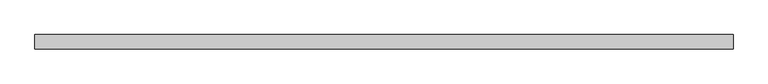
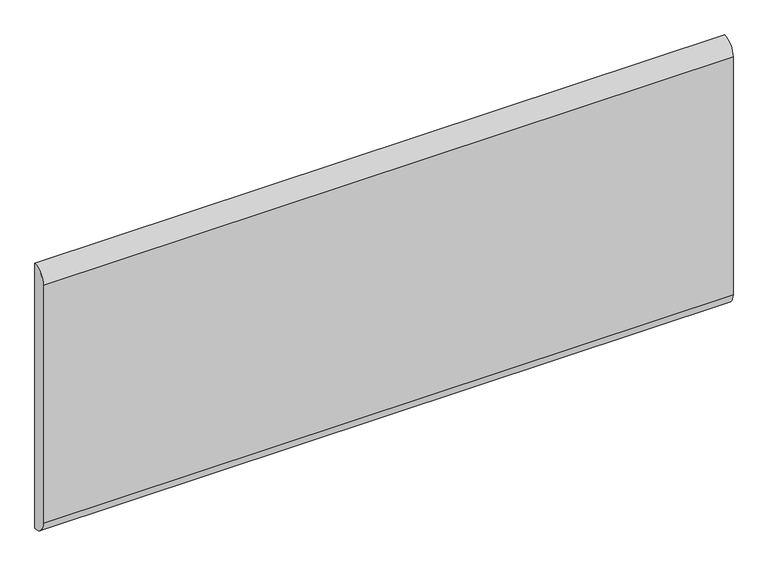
"""IFC4 building model written with IfcOpenShell, lengths in millimetres: furniture geometry."""

from ifc_helpers import new_model, si_unit, point, frame, frame_2d, origin, place, context, project, spatial, polyline, circle_curve, trimmed, segment, composite_curve, outline, extrude, source, transform, mapped, element, save


def furniture_243052f0(model_context):
    return source(origin(), model_context, "Body", "SweptSolid", [
        extrude(outline(composite_curve([segment(trimmed(circle_curve(frame_2d((12.7, 1409.7)), 25.4), [point((12.7, 1384.3))], [point((-12.7, 1409.7))], False, "CARTESIAN"), True, "CONTINUOUS"), segment(polyline([(-12.7, 1409.7), (-12.7, 1854.2)]), True, "CONTINUOUS"), segment(trimmed(circle_curve(frame_2d((12.7, 1854.2)), 25.4), [point((-12.7, 1854.2))], [point((12.7, 1879.6))], False, "CARTESIAN"), True, "CONTINUOUS"), segment(polyline([(12.7, 1879.6), (12.7, 1384.3)]), True, "CONTINUOUS")], self_intersect=False)), frame((-609.6, 0.0, 0.0), z_axis=(1.0, 0.0, 0.0), x_axis=(0.0, 1.0, 0.0)), (0.0, 0.0, 1.0), 1219.2),
    ])


if __name__ == "__main__":
    model = new_model("IFC4")
    model_context = context("Model", 3, world=origin())
    ifc_project = project(units=[si_unit("LENGTHUNIT", "METRE", prefix="MILLI")], contexts=[model_context])
    site = spatial("IfcSite", under=ifc_project)
    building = spatial("IfcBuilding", under=site)
    placement = place(None, origin())
    furniture_shape = furniture_243052f0(model_context)
    element("IfcFurniture", 1, ObjectType="HermanMiller_ActionOffice_A3410_B-StyleTackboard : 20\"H x 48\"W", at=placement, inside=building, context=model_context, shape_type="MappedRepresentation", body=[
        mapped(furniture_shape, transform((0.0, 0.0, 0.0), x_axis=(1.0, 0.0, 0.0), y_axis=(0.0, 1.0, 0.0), z_axis=(0.0, 0.0, 1.0))),
    ])
    save(model, "model.ifc")
